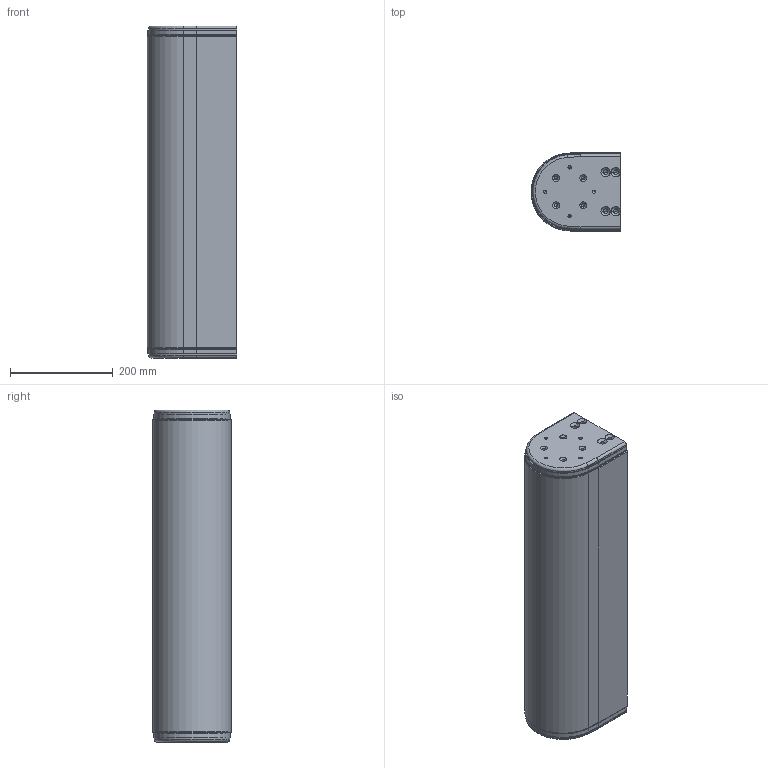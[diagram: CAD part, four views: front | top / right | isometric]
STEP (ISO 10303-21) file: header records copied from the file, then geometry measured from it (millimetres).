
FILE_DESCRIPTION (( 'STEP AP214' ), '1' );
FILE_NAME ('F2 2400 RP.step', '2017-04-05T07:33:32', ( '' ), ( '' ), 'SwSTEP 2.0', 'SolidWorks 2015', '' );
FILE_SCHEMA (( 'AUTOMOTIVE_DESIGN' ));
Length unit declared in the file: millimetre
Products named in the file (1): F2 2400 RP
Bounding box: 175.3 x 153.4 x 647 mm (x, y, z)
Volume: 15605841.2 mm3; surface area: 435530.2 mm2
Topology: 1 solids, 1 shells, 194 faces, 480 edges, 264 vertices
Faces by surface type: cone 80, cylinder 73, plane 37, torus 4
Entity records: 5811 total; most frequent: DIRECTION 980, CARTESIAN_POINT 915, ORIENTED_EDGE 864, EDGE_CURVE 432, AXIS2_PLACEMENT_3D 361, VERTEX_POINT 264, LINE 258, VECTOR 258
